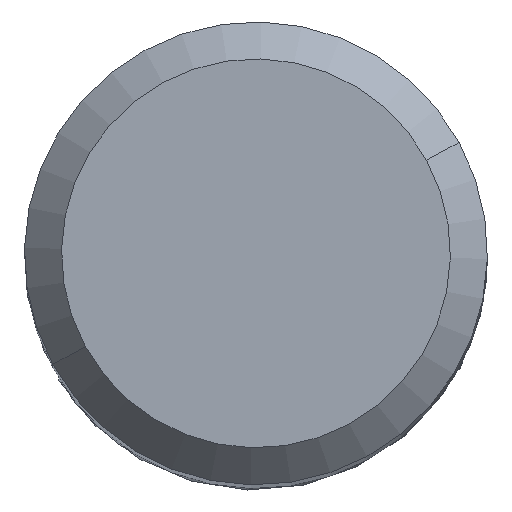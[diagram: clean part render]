
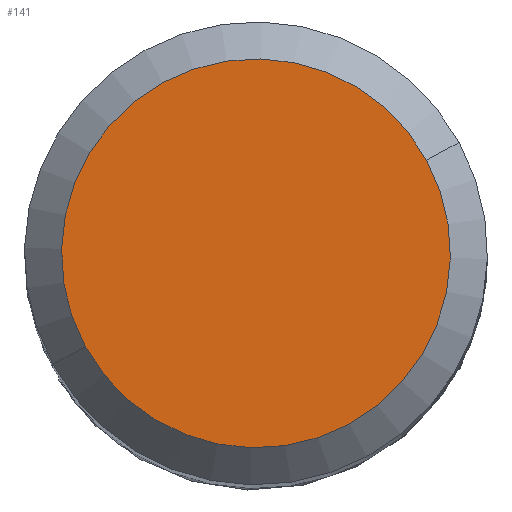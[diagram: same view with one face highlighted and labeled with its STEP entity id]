
A CAD part, top view. The second image highlights one B-rep face of the part: STEP entity #141.
In plain terms, the highlighted planar face has unit normal (0, 0, 1).
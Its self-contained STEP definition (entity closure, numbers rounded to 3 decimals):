
#86=AXIS2_PLACEMENT_3D('Circle Axis2P3D',#84,#85,$) ;
#130=AXIS2_PLACEMENT_3D('Plane Axis2P3D',#127,#128,#129) ;
#134=AXIS2_PLACEMENT_3D('Circle Axis2P3D',#132,#133,$) ;
#84=CARTESIAN_POINT('Axis2P3D Location',(0.,0.,72.)) ;
#88=CARTESIAN_POINT('Vertex',(3.686,2.014,72.)) ;
#90=CARTESIAN_POINT('Vertex',(-3.686,-2.014,72.)) ;
#127=CARTESIAN_POINT('Axis2P3D Location',(4.2,0.,72.)) ;
#132=CARTESIAN_POINT('Axis2P3D Location',(0.,0.,72.)) ;
#85=DIRECTION('Axis2P3D Direction',(0.,0.,-1.)) ;
#128=DIRECTION('Axis2P3D Direction',(0.,0.,1.)) ;
#129=DIRECTION('Axis2P3D XDirection',(1.,0.,0.)) ;
#133=DIRECTION('Axis2P3D Direction',(0.,0.,1.)) ;
#138=ORIENTED_EDGE('',*,*,#92,.T.) ;
#139=ORIENTED_EDGE('',*,*,#136,.T.) ;
#141=ADVANCED_FACE('NOCUT',(#140),#131,.T.) ;
#87=CIRCLE('generated circle',#86,4.2) ;
#135=CIRCLE('generated circle',#134,4.2) ;
#92=EDGE_CURVE('',#89,#91,#87,.F.) ;
#136=EDGE_CURVE('',#91,#89,#135,.T.) ;
#137=EDGE_LOOP('',(#138,#139)) ;
#140=FACE_OUTER_BOUND('',#137,.T.) ;
#131=PLANE('',#130) ;
#89=VERTEX_POINT('',#88) ;
#91=VERTEX_POINT('',#90) ;
